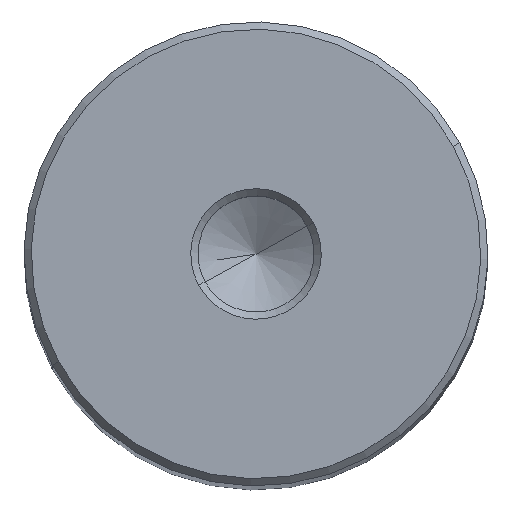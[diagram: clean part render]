
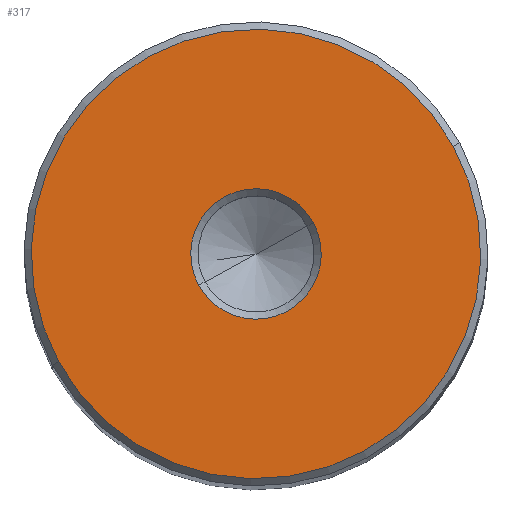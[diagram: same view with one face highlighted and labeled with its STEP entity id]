
A CAD part, top view. The second image highlights one B-rep face of the part: STEP entity #317.
In plain terms, the highlighted planar face has unit normal (0, 0, 1).
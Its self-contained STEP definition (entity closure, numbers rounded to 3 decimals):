
#146=AXIS2_PLACEMENT_3D('Circle Axis2P3D',#144,#145,$) ;
#165=AXIS2_PLACEMENT_3D('Circle Axis2P3D',#163,#164,$) ;
#205=AXIS2_PLACEMENT_3D('Circle Axis2P3D',#203,#204,$) ;
#222=AXIS2_PLACEMENT_3D('Circle Axis2P3D',#220,#221,$) ;
#307=AXIS2_PLACEMENT_3D('Plane Axis2P3D',#304,#305,#306) ;
#141=CARTESIAN_POINT('Vertex',(13.603,7.431,60.)) ;
#144=CARTESIAN_POINT('Axis2P3D Location',(0.,0.,60.)) ;
#148=CARTESIAN_POINT('Vertex',(-13.603,-7.431,60.)) ;
#163=CARTESIAN_POINT('Axis2P3D Location',(0.,0.,60.)) ;
#184=CARTESIAN_POINT('Vertex',(3.949,2.157,60.)) ;
#200=CARTESIAN_POINT('Vertex',(-3.949,-2.157,60.)) ;
#203=CARTESIAN_POINT('Axis2P3D Location',(0.,0.,60.)) ;
#220=CARTESIAN_POINT('Axis2P3D Location',(0.,0.,60.)) ;
#304=CARTESIAN_POINT('Axis2P3D Location',(-4.5,0.,60.)) ;
#145=DIRECTION('Axis2P3D Direction',(0.,0.,-1.)) ;
#164=DIRECTION('Axis2P3D Direction',(0.,0.,-1.)) ;
#204=DIRECTION('Axis2P3D Direction',(0.,0.,1.)) ;
#221=DIRECTION('Axis2P3D Direction',(0.,0.,1.)) ;
#305=DIRECTION('Axis2P3D Direction',(0.,0.,1.)) ;
#306=DIRECTION('Axis2P3D XDirection',(1.,0.,0.)) ;
#310=ORIENTED_EDGE('',*,*,#167,.T.) ;
#311=ORIENTED_EDGE('',*,*,#150,.T.) ;
#314=ORIENTED_EDGE('',*,*,#207,.F.) ;
#315=ORIENTED_EDGE('',*,*,#224,.F.) ;
#316=FACE_BOUND('',#313,.T.) ;
#317=ADVANCED_FACE('NOCUT',(#312,#316),#308,.T.) ;
#147=CIRCLE('generated circle',#146,15.5) ;
#166=CIRCLE('generated circle',#165,15.5) ;
#206=CIRCLE('generated circle',#205,4.5) ;
#223=CIRCLE('generated circle',#222,4.5) ;
#150=EDGE_CURVE('',#149,#142,#147,.F.) ;
#167=EDGE_CURVE('',#142,#149,#166,.F.) ;
#207=EDGE_CURVE('',#201,#185,#206,.T.) ;
#224=EDGE_CURVE('',#185,#201,#223,.T.) ;
#309=EDGE_LOOP('',(#310,#311)) ;
#313=EDGE_LOOP('',(#314,#315)) ;
#312=FACE_OUTER_BOUND('',#309,.T.) ;
#308=PLANE('',#307) ;
#142=VERTEX_POINT('',#141) ;
#149=VERTEX_POINT('',#148) ;
#185=VERTEX_POINT('',#184) ;
#201=VERTEX_POINT('',#200) ;
